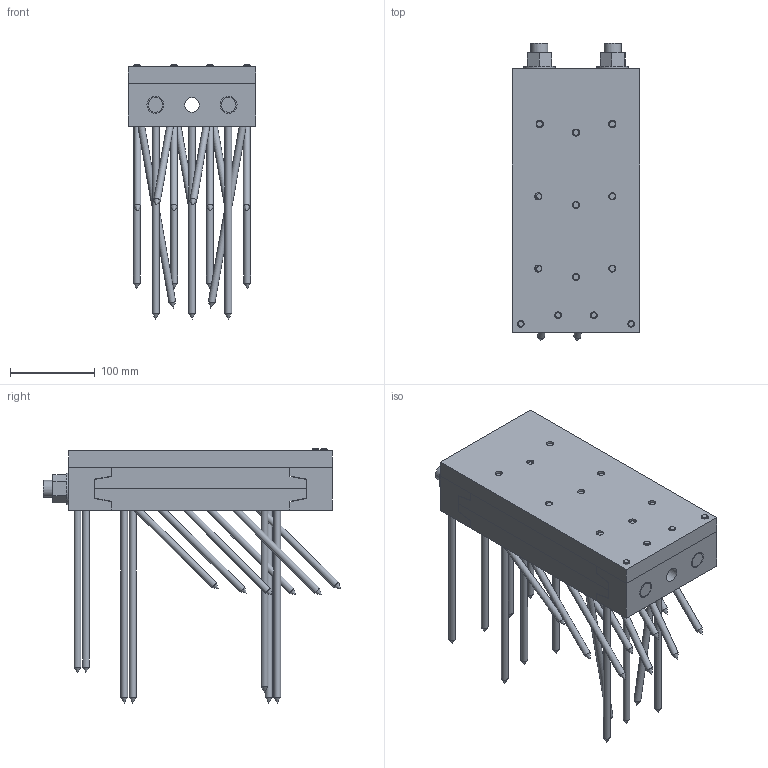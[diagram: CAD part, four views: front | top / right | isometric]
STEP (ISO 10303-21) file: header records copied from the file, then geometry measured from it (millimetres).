
FILE_DESCRIPTION(/* description */ ('Unknown'),/* implementation_level */ '2;1');
FILE_NAME(/* name */ 'MEGANT_310x150x50_Holz-Stahlanschluss_Sichtbar',/* time_stamp */ '2022-02-22T12:50:46+01:00',/* author */ ('Unknown'),/* organization */ ('Unknown'),/* preprocessor_version */ 'ST-DEVELOPER v16.7',/* originating_system */ 'Solid Edge',/* authorisation */ 'Unknown');
FILE_SCHEMA (('AUTOMOTIVE_DESIGN {1 0 10303 214 3 1 1}'));
Length unit declared in the file: millimetre
Products named in the file (18): MEGANT_310x150x50_Holz-Stahlanschluss_Sichtbar; Verbinderplatte_250x150x25_9xSKM10x30; Verbinderplatte_250x150x25_9xSKM10x30par; SK_M10x30; Verbinderplatte_250x150x25_NT; SK_Schraube_8x240; Verbinderplatte_250x150x25; SK_Schraube_8x160; Gewindestange_M20_L340; Mutter_M20; Beilagscheibe_M20; Spannbacke_oben_150x50x50_NT; Spannbacke_oben_150x50x50; Spannbacke_unten_150x50x50_Stahl-Anschluss_4xSK_M8x70; Spannbacke_unten_150x50x50; SK_M8x70; Stahlplatte_150x310x20_9xSKM10x30_4xM8x70
Assembly tree (51 placements, depth 3):
  MEGANT_310x150x50_Holz-Stahlanschluss_Sichtbar
    Verbinderplatte_250x150x25_9xSKM10x30
      Verbinderplatte_250x150x25_9xSKM10x30par
      SK_M10x30  x9
    Verbinderplatte_250x150x25_NT
      SK_Schraube_8x240  x8
      Verbinderplatte_250x150x25
      SK_Schraube_8x160  x12
    Gewindestange_M20_L340  x2
      Gewindestange_M20_L340
      Mutter_M20
      Beilagscheibe_M20
    Spannbacke_oben_150x50x50_NT
      SK_Schraube_8x240  x4
      Spannbacke_oben_150x50x50
    Spannbacke_unten_150x50x50_Stahl-Anschluss_4xSK_M8x70
      Spannbacke_unten_150x50x50
      SK_M8x70  x4
    Stahlplatte_150x310x20_9xSKM10x30_4xM8x70
Bounding box: 150 x 349.49 x 299 mm (x, y, z)
Volume: 3204644.4 mm3; surface area: 652629 mm2
Topology: 48 solids, 48 shells, 605 faces, 1399 edges, 882 vertices
Faces by surface type: plane 260, cylinder 220, cone 125
Full cylindrical faces by diameter (mm): 8 x28, 8.3 x4, 8.376 x18, 8.5 x42, 10 x9, 10.5 x9, 14 x4, 15 x66, 17.294 x5, 20 x20, 21 x5, 37 x2
Entity records: 11952 total; most frequent: DIRECTION 1966, CARTESIAN_POINT 1836, ORIENTED_EDGE 1550, EDGE_CURVE 775, FACE_BOUND 746, EDGE_LOOP 744, AXIS2_PLACEMENT_3D 739, VERTEX_POINT 609
